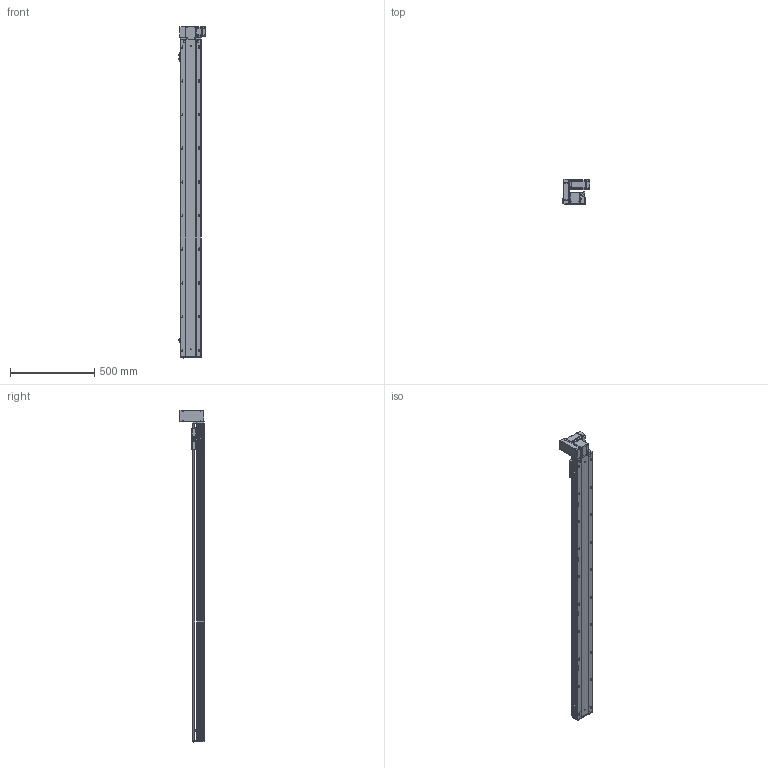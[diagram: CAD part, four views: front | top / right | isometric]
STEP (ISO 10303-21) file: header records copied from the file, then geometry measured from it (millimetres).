
FILE_DESCRIPTION (( 'STEP AP203' ), '1' );
FILE_NAME ('RY120-T-300-UL.SLDASM_1650.step', '2021-03-01T05:37:17', ( '盈信电脑' ), ( '东莞市道滘镇水果街19号' ), 'SwSTEP 2.0', 'SolidWorks 2012', '' );
FILE_SCHEMA (( 'CONFIG_CONTROL_DESIGN' ));
Products named in the file (18): RY120-T-300-UL.SLDASM_1650; 滅袉蝶18-10; RY120-T翋肮祭謫裔啣; RY120-T蹟翐M4; RY120-T萇儂欶; 15; RY120-T主同步轮轴承压盖; 侂狟400W侜督萇儂; RY120-T萇儂假蚾啣; RY120-T肮祭湍揤踡輸1; RY120外置感应片(140共用）; RY120-T翋肮祭盓傅釱; RY120-T肮祭湍揤踡輸2; RY120肮祭湍臏賑輸; RY120綴裔啣; 覜茼ん672; RY120-T-300-UL倰第菁釱_1650; RY120-T-300-UL倰第奻裔啣_1650
Assembly tree (23 placements, depth 3):
  RY120-T-300-UL.SLDASM_1650
    RY120-T-300-UL倰第菁釱_1650
    RY120-T-300-UL倰第奻裔啣_1650
    RY120肮祭湍臏賑輸
    RY120綴裔啣
    覜茼ん672  x3
    RY120外置感应片(140共用）
    RY120-T肮祭湍揤踡輸1
    RY120-T肮祭湍揤踡輸2
    RY120-T翋肮祭盓傅釱
    RY120-T萇儂假蚾啣
    侂狟400W侜督萇儂
      15
    RY120-T主同步轮轴承压盖
    滅袉蝶18-10  x2
    RY120-T萇儂欶
    RY120-T蹟翐M4  x4
    RY120-T翋肮祭謫裔啣
Bounding box: 164.2 x 146 x 1971 mm (x, y, z)
Volume: 5039651.5 mm3; surface area: 1914635.3 mm2
Topology: 23 solids, 23 shells, 3030 faces, 8288 edges, 5292 vertices
Faces by surface type: plane 1446, cylinder 1196, cone 299, bspline 89
Entity records: 97408 total; most frequent: CARTESIAN_POINT 25296, ORIENTED_EDGE 14912, DIRECTION 14066, EDGE_CURVE 7456, VERTEX_POINT 4879, AXIS2_PLACEMENT_3D 4761, LINE 4544, VECTOR 4544
